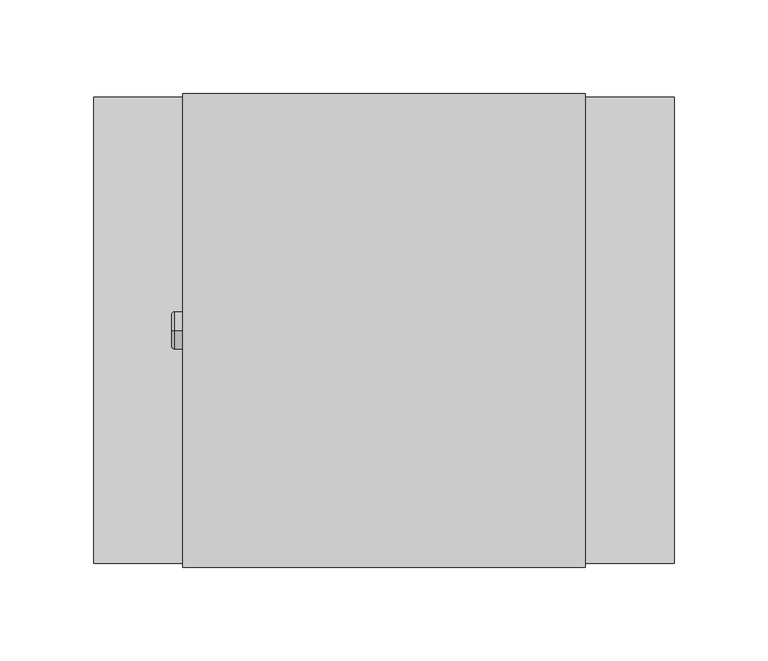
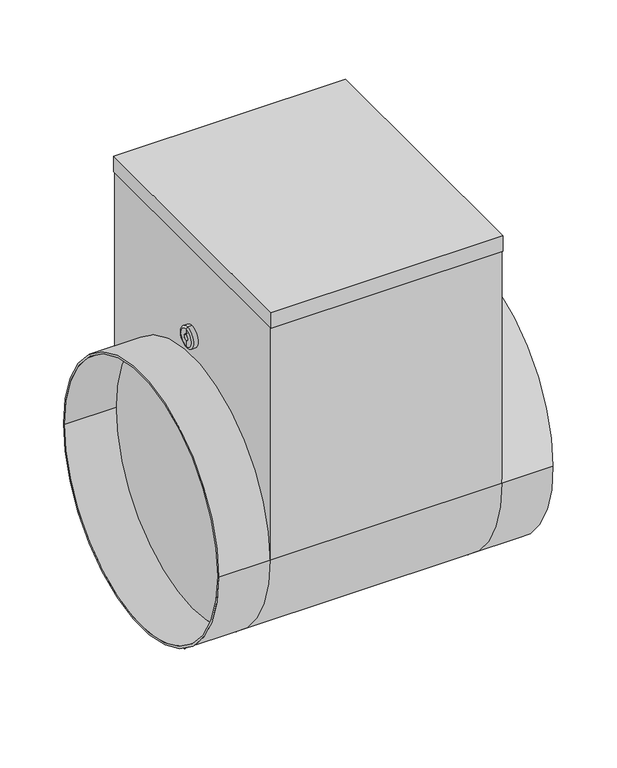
"""IFC4 building model written with IfcOpenShell, lengths in millimetres: proxy geometry, СВ_ВоздухонагревательЭлектрический_КанальныйКруглый_DN100-315_SKH-E : SKH-E-250/6."""

from ifc_helpers import new_model, si_unit, point, frame, origin, place, context, project, spatial, polyline, circle_curve, ellipse_curve, trimmed, outline, extrude, source, transform, mapped, element, save
from ifc_brep_helpers import plane_surface, cylinder_surface, revolved_surface, advanced_brep


def mechanical_equipment_35eb6cfc(model_context):
    return source(origin(), model_context, "Body", "SolidModel", [
        extrude(outline(polyline([(107.5, -126.5), (-107.5, -126.5), (-107.5, 126.5), (107.5, 126.5), (107.5, -126.5)])), frame((0.0, 0.0, 228.5), z_axis=(0.0, 0.0, 1.0), x_axis=(1.0, 0.0, 0.0)), (0.0, 0.0, 1.0), 15.0),
        advanced_brep(
        [(-155.0, -124.5, 0.0), (-155.0, 124.5, 0.0), (-155.0, -122.5, 0.0), (-155.0, 122.5, 0.0), (-107.5, 122.5, 0.0), (-107.5, -122.5, 0.0), (-107.5, 124.5, 0.0), (-107.5, -124.5, 0.0), (107.5, -122.5, 0.0), (107.5, 122.5, 0.0), (107.5, -124.5, 228.5), (107.5, -124.5, 0.0), (107.5, 124.5, 0.0), (107.5, 124.5, 228.5), (-107.5, -124.5, 228.5), (-107.5, 124.5, 228.5), (155.0, -124.5, 0.0), (155.0, 124.5, 0.0), (155.0, -122.5, 0.0), (155.0, 122.5, 0.0)],
        [
            (0, 1, circle_curve(frame((-155.0, 0.0, 0.0), z_axis=(-1.0, 0.0, 0.0), x_axis=(0.0, 1.0, 0.0)), 124.5)),
            (1, 0, circle_curve(frame((-155.0, 0.0, 0.0), z_axis=(-1.0, 0.0, 0.0), x_axis=(0.0, 1.0, 0.0)), 124.5)),
            (2, 3, circle_curve(frame((-155.0, 0.0, 0.0), z_axis=(1.0, 0.0, 0.0), x_axis=(0.0, 1.0, 0.0)), 122.5)),
            (3, 2, circle_curve(frame((-155.0, 0.0, 0.0), z_axis=(1.0, 0.0, 0.0), x_axis=(0.0, 1.0, 0.0)), 122.5)),
            (3, 4),
            (4, 5, circle_curve(frame((-107.5, 0.0, 0.0), z_axis=(1.0, 0.0, 0.0), x_axis=(0.0, 1.0, 0.0)), 122.5)),
            (5, 2),
            (5, 4, circle_curve(frame((-107.5, 0.0, 0.0), z_axis=(1.0, 0.0, 0.0), x_axis=(0.0, 1.0, 0.0)), 122.5)),
            (1, 6),
            (6, 7, circle_curve(frame((-107.5, 0.0, 0.0), z_axis=(-1.0, 0.0, 0.0), x_axis=(0.0, 1.0, 0.0)), 124.5)),
            (7, 0),
            (7, 6, circle_curve(frame((-107.5, 0.0, 0.0), z_axis=(-1.0, 0.0, 0.0), x_axis=(0.0, 1.0, 0.0)), 124.5)),
            (8, 9, circle_curve(frame((107.5, 0.0, 0.0), z_axis=(1.0, 0.0, 0.0), x_axis=(0.0, 1.0, 0.0)), 122.5)),
            (9, 8, circle_curve(frame((107.5, 0.0, 0.0), z_axis=(1.0, 0.0, 0.0), x_axis=(0.0, 1.0, 0.0)), 122.5)),
            (10, 11),
            (11, 12, circle_curve(frame((107.5, 0.0, 0.0), z_axis=(-1.0, 0.0, 0.0), x_axis=(0.0, 1.0, 0.0)), 124.5)),
            (12, 13),
            (13, 10),
            (7, 14),
            (14, 15),
            (15, 6),
            (6, 12),
            (12, 11, circle_curve(frame((107.5, 0.0, 0.0), z_axis=(-1.0, 0.0, 0.0), x_axis=(0.0, 1.0, 0.0)), 124.5)),
            (11, 7),
            (16, 17, circle_curve(frame((155.0, 0.0, 0.0), z_axis=(1.0, 0.0, 0.0), x_axis=(0.0, 1.0, 0.0)), 124.5)),
            (17, 16, circle_curve(frame((155.0, 0.0, 0.0), z_axis=(1.0, 0.0, 0.0), x_axis=(0.0, 1.0, 0.0)), 124.5)),
            (18, 19, circle_curve(frame((155.0, 0.0, 0.0), z_axis=(-1.0, 0.0, 0.0), x_axis=(0.0, 1.0, 0.0)), 122.5)),
            (19, 18, circle_curve(frame((155.0, 0.0, 0.0), z_axis=(-1.0, 0.0, 0.0), x_axis=(0.0, 1.0, 0.0)), 122.5)),
            (18, 8),
            (9, 19),
            (16, 11),
            (12, 17),
            (10, 14),
            (15, 13),
        ],
        [
            plane_surface(frame((-155.0, 122.5, 0.0), z_axis=(-1.0, 0.0, 0.0), x_axis=(0.0, 0.0, 1.0))),
            revolved_surface(polyline([(-155.0, 122.5, 0.0), (-107.5, 122.5, 0.0)]), (-155.0, 0.0, 0.0), (-1.0, 0.0, 0.0)),
            cylinder_surface(frame((0.0, 0.0, 0.0), z_axis=(1.0, 0.0, 0.0), x_axis=(0.0, 1.0, 0.0)), 124.5),
            plane_surface(frame((107.5, 124.5, 0.0), z_axis=(1.0, 0.0, 0.0), x_axis=(0.0, -1.0, 0.0))),
            plane_surface(frame((-107.5, 124.5, 0.0), z_axis=(-1.0, 0.0, 0.0), x_axis=(0.0, 1.0, 0.0))),
            cylinder_surface(frame((-107.5, 0.0, 0.0), z_axis=(1.0, 0.0, 0.0), x_axis=(0.0, 1.0, 0.0)), 124.5),
            plane_surface(frame((155.0, 122.5, 0.0), z_axis=(1.0, 0.0, 0.0), x_axis=(0.0, 0.0, -1.0))),
            revolved_surface(polyline([(107.5, 122.5, 0.0), (155.0, 122.5, 0.0)]), (107.5, 0.0, 0.0), (-1.0, 0.0, 0.0)),
            plane_surface(frame((-107.5, -124.5, 228.5), z_axis=(0.0, -1.0, 0.0), x_axis=(-1.0, 0.0, 0.0))),
            plane_surface(frame((-107.5, 124.5, 228.5), z_axis=(0.0, 1.0, 0.0), x_axis=(1.0, 0.0, 0.0))),
            plane_surface(frame((107.5, -124.5, 228.5), z_axis=(0.0, 0.0, 1.0), x_axis=(0.0, 1.0, 0.0))),
        ],
        [
            (0, [[1, 2], [3, 4]]),
            (1, [[-4, 5, 6, 7]]),
            (1, [[-3, -7, 8, -5]]),
            (2, [[-2, 9, 10, 11]]),
            (2, [[-1, -11, 12, -9]]),
            (3, [[13, 14]]),
            (3, [[15, 16, 17, 18]]),
            (4, [[-8, -6]]),
            (4, [[19, 20, 21, -12]]),
            (5, [[-10, 22, 23, 24]]),
            (6, [[25, 26], [27, 28]]),
            (7, [[-27, 29, -14, 30]]),
            (7, [[-28, -30, -13, -29]]),
            (2, [[-25, 31, -23, 32]]),
            (2, [[-26, -32, -16, -31]]),
            (8, [[33, -19, -24, -15]]),
            (9, [[-17, -22, -21, 34]]),
            (10, [[-33, -18, -34, -20]]),
        ],
    ),
        advanced_brep(
        [(-111.7840134, 0.0, 134.5), (-111.7840134, 0.0, 154.5), (-107.5, 0.0, 154.5), (-107.5, 0.0, 134.5), (-113.2459771, 0.0, 135.9619637), (-113.2459771, 0.0, 153.0380363), (-113.2459771, 0.0, 141.3948071), (-113.2459771, 0.0, 147.6051929), (-110.9138357, 0.0, 141.3948071), (-110.9138357, 0.0, 147.6051929), (-110.9138357, 0.0, 144.5), (-107.5, 0.0, 144.5)],
        [
            (0, 1, circle_curve(frame((-111.7840134, 0.0, 144.5), z_axis=(1.0, 0.0, 0.0), x_axis=(0.0, 0.0, 1.0)), 10.0)),
            (1, 2),
            (2, 3, circle_curve(frame((-107.5, 0.0, 144.5), z_axis=(-1.0, 0.0, 0.0), x_axis=(0.0, 0.0, 1.0)), 10.0)),
            (3, 0),
            (1, 0, circle_curve(frame((-111.7840134, 0.0, 144.5), z_axis=(1.0, 0.0, 0.0), x_axis=(0.0, 0.0, 1.0)), 10.0)),
            (3, 2, circle_curve(frame((-107.5, 0.0, 144.5), z_axis=(-1.0, 0.0, 0.0), x_axis=(0.0, 0.0, 1.0)), 10.0)),
            (4, 5, circle_curve(frame((-113.2459771, 0.0, 144.5), z_axis=(1.0, 0.0, 0.0), x_axis=(0.0, 0.0, 1.0)), 8.5380363)),
            (5, 1, circle_curve(frame((-111.7840134, 0.0, 153.0380363), z_axis=(0.0, 1.0, 0.0), x_axis=(1.0, 0.0, 0.0)), 1.4619637)),
            (0, 4, circle_curve(frame((-111.7840134, 0.0, 135.9619637), z_axis=(0.0, 1.0, 0.0), x_axis=(1.0, 0.0, 0.0)), 1.4619637)),
            (5, 4, circle_curve(frame((-113.2459771, 0.0, 144.5), z_axis=(1.0, 0.0, 0.0), x_axis=(0.0, 0.0, 1.0)), 8.5380363)),
            (6, 7, circle_curve(frame((-113.2459771, 0.0, 144.5), z_axis=(1.0, 0.0, 0.0), x_axis=(0.0, 0.0, 1.0)), 3.1051929)),
            (7, 5),
            (4, 6),
            (7, 6, circle_curve(frame((-113.2459771, 0.0, 144.5), z_axis=(1.0, 0.0, 0.0), x_axis=(0.0, 0.0, 1.0)), 3.1051929)),
            (8, 9, circle_curve(frame((-110.9138357, 0.0, 144.5), z_axis=(1.0, 0.0, 0.0), x_axis=(0.0, 0.0, 1.0)), 3.1051929)),
            (9, 7),
            (6, 8),
            (9, 8, circle_curve(frame((-110.9138357, 0.0, 144.5), z_axis=(1.0, 0.0, 0.0), x_axis=(0.0, 0.0, 1.0)), 3.1051929)),
            (10, 9),
            (8, 10),
            (2, 11),
            (11, 3),
        ],
        [
            cylinder_surface(frame((-143.1635229, 0.0, 144.5), z_axis=(-1.0, 0.0, 0.0), x_axis=(0.0, 0.0, 1.0)), 10.0),
            revolved_surface(trimmed(ellipse_curve(frame((-111.7840134, 0.0, 153.0380363), z_axis=(0.0, -1.0, 0.0), x_axis=(1.0, 0.0, 0.0)), 1.4619637, 1.4619637), [point((-111.7840134, 0.0, 154.5))], [point((-113.2459771, 0.0, 153.0380363))], True, "CARTESIAN"), (-143.1635229, 0.0, 144.5), (-1.0, 0.0, 0.0)),
            plane_surface(frame((-113.2459771, 0.0, 144.5), z_axis=(-1.0, 0.0, 0.0), x_axis=(0.0, 0.0, 1.0))),
            revolved_surface(polyline([(-113.2459771, 0.0, 147.6051929), (-110.9138357, 0.0, 147.6051929)]), (-143.1635229, 0.0, 144.5), (-1.0, 0.0, 0.0)),
            plane_surface(frame((-110.9138357, 0.0, 144.5), z_axis=(-1.0, 0.0, 0.0), x_axis=(0.0, 0.0, 1.0))),
            plane_surface(frame((-107.5, 0.0, 144.5), z_axis=(1.0, 0.0, 0.0), x_axis=(0.0, 0.0, 1.0))),
        ],
        [
            (0, [[1, 2, 3, 4]]),
            (0, [[5, -4, 6, -2]]),
            (1, [[7, 8, -1, 9]]),
            (1, [[10, -9, -5, -8]]),
            (2, [[11, 12, -7, 13]]),
            (2, [[14, -13, -10, -12]]),
            (3, [[15, 16, -11, 17]]),
            (3, [[18, -17, -14, -16]]),
            (4, [[19, -15, 20]]),
            (4, [[-20, -18, -19]]),
            (5, [[-3, 21, 22]]),
            (5, [[-6, -22, -21]]),
        ],
    ),
    ])


if __name__ == "__main__":
    model = new_model("IFC4")
    model_context = context("Model", 3, world=origin())
    ifc_project = project(units=[si_unit("LENGTHUNIT", "METRE", prefix="MILLI")], contexts=[model_context])
    site = spatial("IfcSite", under=ifc_project)
    building = spatial("IfcBuilding", under=site)
    placement = place(None, origin())
    mechanical_equipment_shape = mechanical_equipment_35eb6cfc(model_context)
    element("IfcBuildingElementProxy", 1, Name="СВ_ВоздухонагревательЭлектрический_КанальныйКруглый_DN100-315_SKH-E : SKH-E-250/6", ObjectType="СВ_ВоздухонагревательЭлектрический_КанальныйКруглый_DN100-315_SKH-E : SKH-E-250/6", at=placement, inside=building, context=model_context, shape_type="MappedRepresentation", body=[
        mapped(mechanical_equipment_shape, transform((0.0, 0.0, 0.0), x_axis=(1.0, 0.0, 0.0), y_axis=(0.0, 1.0, 0.0), z_axis=(0.0, 0.0, 1.0))),
    ])
    save(model, "model.ifc")
